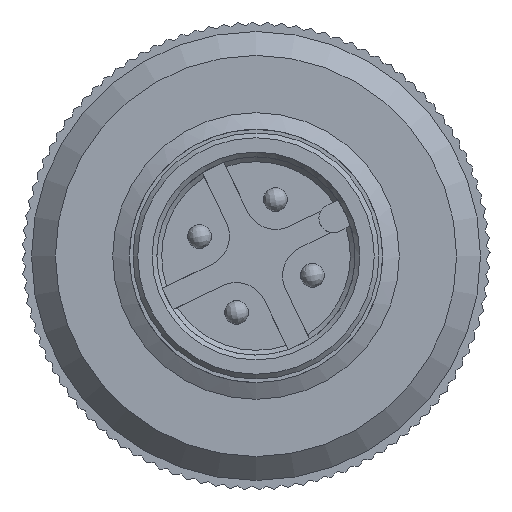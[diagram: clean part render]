
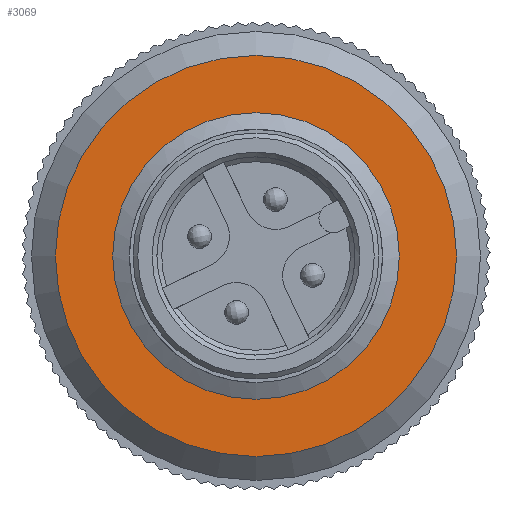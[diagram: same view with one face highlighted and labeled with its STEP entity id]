
A CAD part, left-side view. The second image highlights one B-rep face of the part: STEP entity #3069.
In plain terms, the highlighted planar face has unit normal (-1, 0, 0).
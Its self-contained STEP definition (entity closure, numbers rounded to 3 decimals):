
#415 = DIRECTION ( 'NONE',  ( 0., 0., -1. ) ) ;
#507 = ORIENTED_EDGE ( 'NONE', *, *, #14088, .F. ) ;
#863 = AXIS2_PLACEMENT_3D ( 'NONE', #3733, #21461, #415 ) ;
#1945 = PLANE ( 'NONE',  #14348 ) ;
#3069 = ADVANCED_FACE ( 'NONE', ( #20860, #8905 ), #1945, .T. ) ;
#3439 = VERTEX_POINT ( 'NONE', #17307 ) ;
#3733 = CARTESIAN_POINT ( 'NONE',  ( -8.91, 0.272, 0.07 ) ) ;
#4822 = VERTEX_POINT ( 'NONE', #22265 ) ;
#5280 = DIRECTION ( 'NONE',  ( -1., 0., 0. ) ) ;
#7172 = DIRECTION ( 'NONE',  ( 0., 0., 1. ) ) ;
#7283 = CIRCLE ( 'NONE', #9655, 8.4 ) ;
#8905 = FACE_OUTER_BOUND ( 'NONE', #12852, .T. ) ;
#9655 = AXIS2_PLACEMENT_3D ( 'NONE', #20452, #13263, #15081 ) ;
#10460 = EDGE_CURVE ( 'NONE', #4822, #4822, #19582, .T. ) ;
#12852 = EDGE_LOOP ( 'NONE', ( #507 ) ) ;
#13263 = DIRECTION ( 'NONE',  ( 1., 0., 0. ) ) ;
#14088 = EDGE_CURVE ( 'NONE', #3439, #3439, #7283, .T. ) ;
#14348 = AXIS2_PLACEMENT_3D ( 'NONE', #15860, #5280, #7172 ) ;
#15081 = DIRECTION ( 'NONE',  ( 0., 0., -1. ) ) ;
#15860 = CARTESIAN_POINT ( 'NONE',  ( -8.91, 0.272, 0.07 ) ) ;
#17307 = CARTESIAN_POINT ( 'NONE',  ( -8.91, 0.272, -8.33 ) ) ;
#19582 = CIRCLE ( 'NONE', #863, 6. ) ;
#20452 = CARTESIAN_POINT ( 'NONE',  ( -8.91, 0.272, 0.07 ) ) ;
#20860 = FACE_BOUND ( 'NONE', #22485, .T. ) ;
#21413 = ORIENTED_EDGE ( 'NONE', *, *, #10460, .T. ) ;
#21461 = DIRECTION ( 'NONE',  ( 1., 0., 0. ) ) ;
#22265 = CARTESIAN_POINT ( 'NONE',  ( -8.91, 0.272, -5.93 ) ) ;
#22485 = EDGE_LOOP ( 'NONE', ( #21413 ) ) ;
